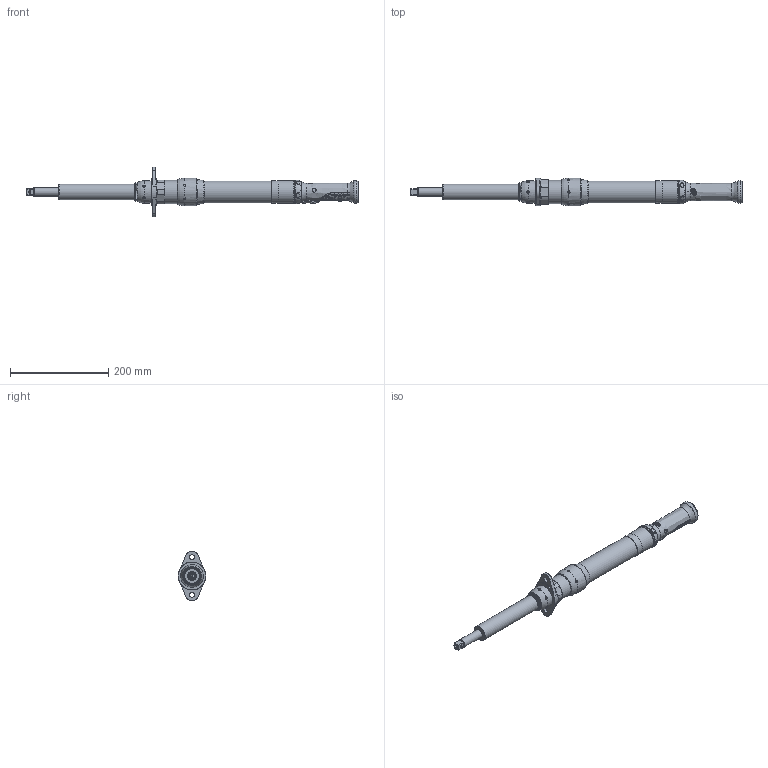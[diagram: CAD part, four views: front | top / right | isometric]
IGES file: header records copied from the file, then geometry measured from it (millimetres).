
Global section: file name: 80119424_D_SH2.igs; native system: Unigraphics Version 18.0; preprocessor: UG/IGES Version 18.0; date: 040427.171439; units: inch
Bounding box: 675.14 x 55.88 x 101.6 mm (x, y, z)
Surface area: 94715 mm2 (no closed solid volume)
Topology: 0 solids, 0 shells, 831 faces, 6877 edges, 6818 vertices
Faces by surface type: revolution 465, extrusion 331, bspline 35
